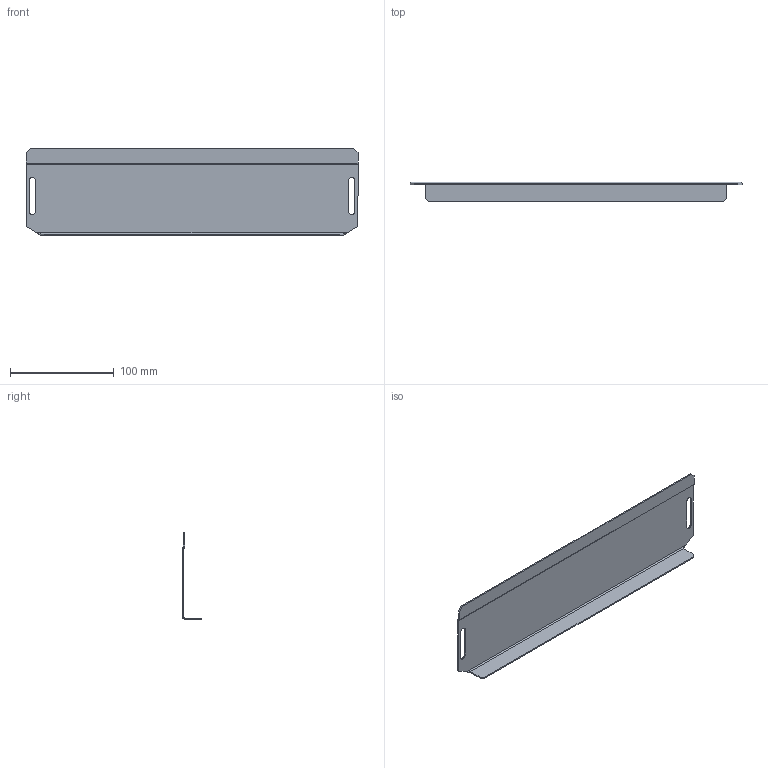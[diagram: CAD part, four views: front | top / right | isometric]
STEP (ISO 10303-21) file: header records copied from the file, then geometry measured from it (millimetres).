
FILE_DESCRIPTION (( 'STEP AP214' ), '1' );
FILE_NAME ('PKV 50 P Ïàíåëü ïîäâèæíàÿ.stp', '2021-05-24T10:01:03', ( '' ), ( '' ), 'SwSTEP 2.0', 'SolidWorks 2018', '' );
FILE_SCHEMA (( 'AUTOMOTIVE_DESIGN' ));
Length unit declared in the file: millimetre
Products named in the file (1): PKV 50 P Ïàíåëü ïîäâèæíàÿ
Bounding box: 320.5 x 19 x 83.6 mm (x, y, z)
Volume: 37682.6 mm3; surface area: 63980.7 mm2
Topology: 1 solids, 1 shells, 42 faces, 100 edges, 60 vertices
Faces by surface type: plane 28, cylinder 12, bspline 2
Entity records: 1286 total; most frequent: CARTESIAN_POINT 285, ORIENTED_EDGE 200, DIRECTION 194, EDGE_CURVE 100, LINE 72, VECTOR 72, AXIS2_PLACEMENT_3D 61, VERTEX_POINT 60
